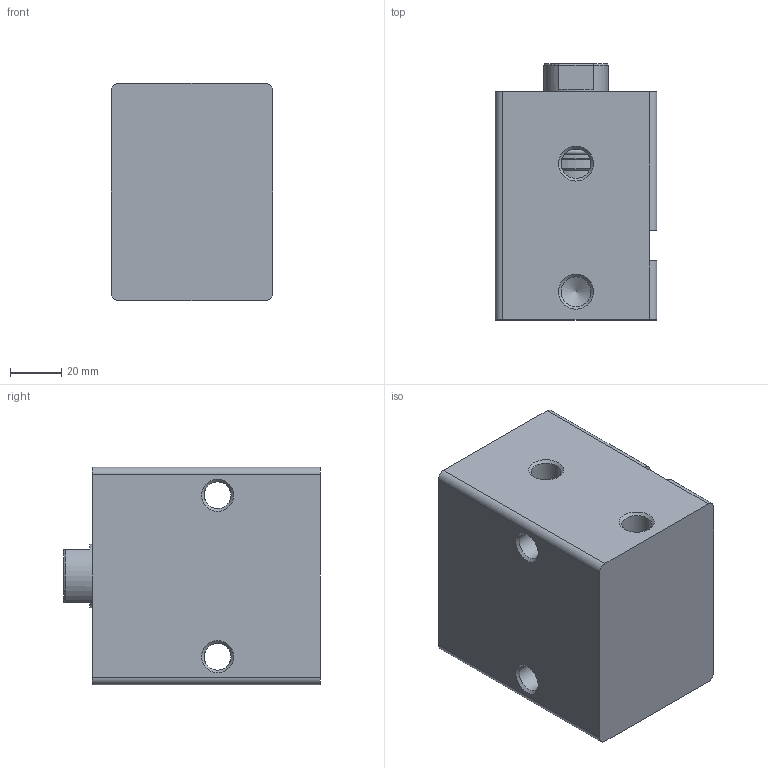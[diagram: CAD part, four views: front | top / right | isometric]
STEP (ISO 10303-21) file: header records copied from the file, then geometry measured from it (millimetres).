
FILE_DESCRIPTION(/* description */ (''),/* implementation_level */ '2;1');
FILE_NAME(/* name */ 'C:/Users/KİNETİC/Desktop/WEB/KBZ_03_40_25_WEB/KBZ_03_40_25_35.step',/* time_stamp */ '2022-09-09T10:42:44+03:00',/* author */ (''),/* organization */ (''),/* preprocessor_version */ 'ST-DEVELOPER v19',/* originating_system */ 'Autodesk Translation Framework v11.7.0.108',/* authorisation */ '');
FILE_SCHEMA (('AUTOMOTIVE_DESIGN { 1 0 10303 214 3 1 1 }'));
Length unit declared in the file: millimetre
Products named in the file (9): KBZ_03_40_25_35; ÖN_KAPAK_40/25; Component1; K06-25X33_6X5_3X7; K22-25X35X6; K68-025x30x6; KO-38X2; Ø25_MİL_WEB; Component1_1
Assembly tree (8 placements, depth 3):
  KBZ_03_40_25_35
    ÖN_KAPAK_40/25
      Component1
      K06-25X33_6X5_3X7
      K22-25X35X6
      K68-025x30x6
      KO-38X2
    Ø25_MİL_WEB
      Component1_1
Bounding box: 63 x 100 x 85 mm (x, y, z)
Volume: 435691.6 mm3; surface area: 76665.3 mm2
Topology: 7 solids, 7 shells, 138 faces, 287 edges, 180 vertices
Faces by surface type: plane 52, cylinder 43, cone 35, torus 8
Full cylindrical faces by diameter (mm): 2 x4, 10.5 x2, 11.668 x2, 14.023 x1, 25 x1, 25.5 x3, 25.6 x1, 26.6 x1, 28 x1, 30 x1, 33.6 x2, 35 x2, 36 x1, 38 x2, 40.526 x1, 40.9 x2, 44 x1
Entity records: 4146 total; most frequent: CARTESIAN_POINT 824, DIRECTION 733, ORIENTED_EDGE 572, AXIS2_PLACEMENT_3D 310, EDGE_CURVE 286, VERTEX_POINT 180, EDGE_LOOP 170, CIRCLE 149
